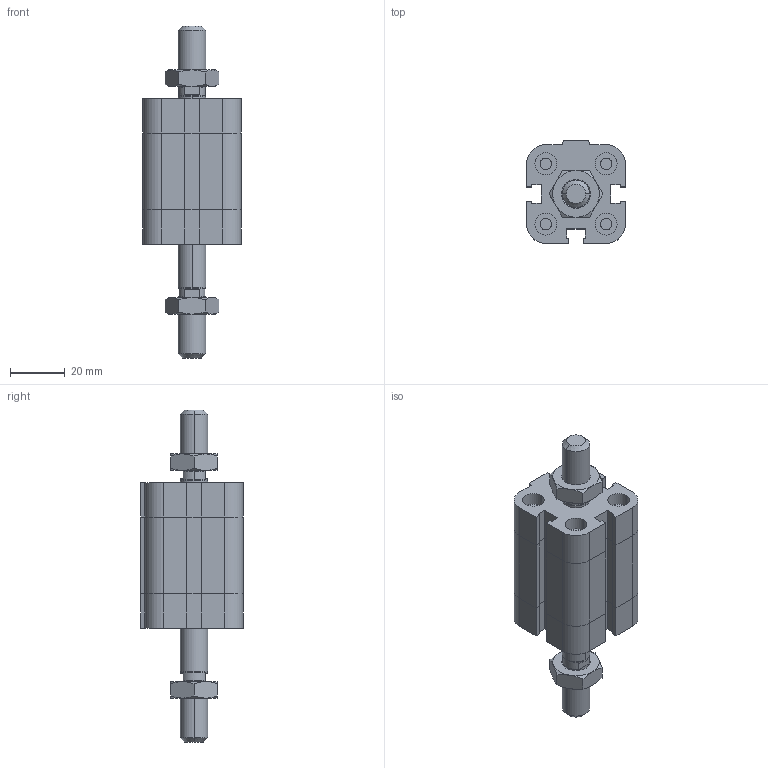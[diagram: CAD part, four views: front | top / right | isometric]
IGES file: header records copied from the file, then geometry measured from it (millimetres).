
Global section: file name: No Iges File Name specified; native system: Autodesk Inventor 2009; preprocessor: AutoDesk Inventor Iges Exporter R2009; author: maffial1; date: 20090420.200840; units: millimetre
Bounding box: 36 x 37.5 x 121 mm (x, y, z)
Volume: 65612.2 mm3; surface area: 21484.8 mm2
Topology: 4 solids, 4 shells, 260 faces, 574 edges, 342 vertices
Faces by surface type: plane 129, bspline 51, cone 38, cylinder 22, revolution 20
